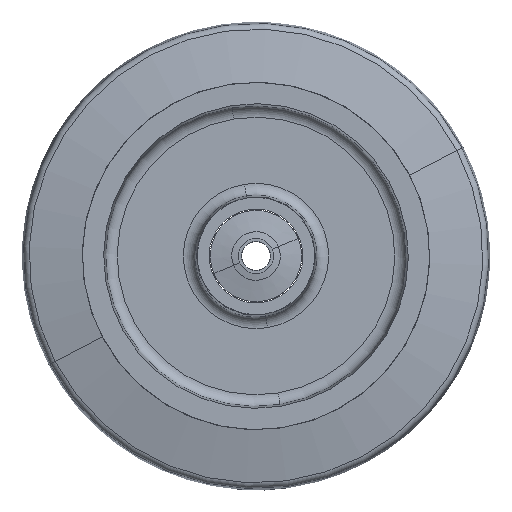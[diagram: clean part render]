
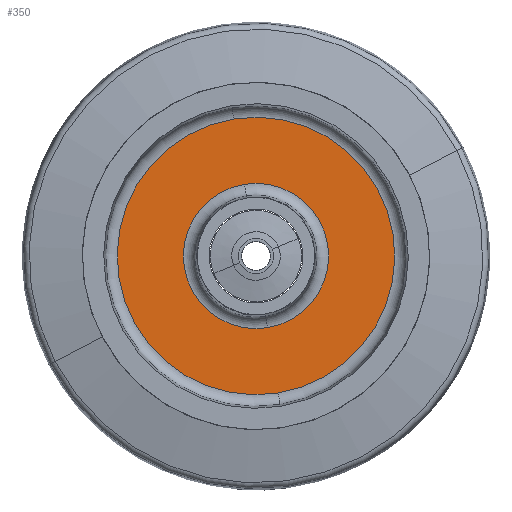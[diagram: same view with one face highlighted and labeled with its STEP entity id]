
A CAD part, left-side view. The second image highlights one B-rep face of the part: STEP entity #350.
In plain terms, the highlighted planar face has unit normal (-1, 0, 0).
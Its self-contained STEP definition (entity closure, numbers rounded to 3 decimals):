
#98 = EDGE_CURVE ( 'NONE', #103, #104, #733, .T. ) ;
#100 = VERTEX_POINT ( 'NONE', #721 ) ;
#103 = VERTEX_POINT ( 'NONE', #796 ) ;
#104 = VERTEX_POINT ( 'NONE', #805 ) ;
#201 = VERTEX_POINT ( 'NONE', #1126 ) ;
#208 = EDGE_CURVE ( 'NONE', #201, #100, #1114, .T. ) ;
#217 = ORIENTED_EDGE ( 'NONE', *, *, #225, .T. ) ;
#225 = EDGE_CURVE ( 'NONE', #104, #103, #951, .T. ) ;
#280 = ORIENTED_EDGE ( 'NONE', *, *, #98, .T. ) ;
#308 = EDGE_LOOP ( 'NONE', ( #217, #280 ) ) ;
#350 = ADVANCED_FACE ( 'NONE', ( #1259, #1354 ), #1353, .T. ) ;
#353 = EDGE_LOOP ( 'NONE', ( #360, #355 ) ) ;
#354 = EDGE_CURVE ( 'NONE', #100, #201, #1266, .T. ) ;
#355 = ORIENTED_EDGE ( 'NONE', *, *, #208, .F. ) ;
#360 = ORIENTED_EDGE ( 'NONE', *, *, #354, .F. ) ;
#721 = CARTESIAN_POINT ( 'NONE',  ( -1.798, -7.404, -56.11 ) ) ;
#733 = CIRCLE ( 'NONE', #802, 31.003 ) ;
#796 = CARTESIAN_POINT ( 'NONE',  ( -1.798, 6.969, 32.947 ) ) ;
#800 = DIRECTION ( 'NONE',  ( 0., -0.159, -0.987 ) ) ;
#801 = DIRECTION ( 'NONE',  ( 1., 0., 0. ) ) ;
#802 = AXIS2_PLACEMENT_3D ( 'NONE', #885, #801, #800 ) ;
#805 = CARTESIAN_POINT ( 'NONE',  ( -1.798, -2.91, -28.266 ) ) ;
#885 = CARTESIAN_POINT ( 'NONE',  ( -1.798, 2.029, 2.341 ) ) ;
#946 = DIRECTION ( 'NONE',  ( 0., -0.159, -0.987 ) ) ;
#947 = DIRECTION ( 'NONE',  ( 1., 0., 0. ) ) ;
#948 = CARTESIAN_POINT ( 'NONE',  ( -1.798, 2.029, 2.341 ) ) ;
#949 = AXIS2_PLACEMENT_3D ( 'NONE', #948, #947, #946 ) ;
#951 = CIRCLE ( 'NONE', #949, 31.003 ) ;
#1110 = DIRECTION ( 'NONE',  ( 0., -0.159, -0.987 ) ) ;
#1111 = DIRECTION ( 'NONE',  ( 1., 0., 0. ) ) ;
#1114 = CIRCLE ( 'NONE', #1119, 59.207 ) ;
#1118 = CARTESIAN_POINT ( 'NONE',  ( -1.798, 2.029, 2.341 ) ) ;
#1119 = AXIS2_PLACEMENT_3D ( 'NONE', #1118, #1111, #1110 ) ;
#1126 = CARTESIAN_POINT ( 'NONE',  ( -1.798, 11.462, 60.791 ) ) ;
#1259 = FACE_BOUND ( 'NONE', #308, .T. ) ;
#1266 = CIRCLE ( 'NONE', #1312, 59.207 ) ;
#1267 = AXIS2_PLACEMENT_3D ( 'NONE', #1349, #1348, #1347 ) ;
#1309 = DIRECTION ( 'NONE',  ( 0., -0.159, -0.987 ) ) ;
#1310 = DIRECTION ( 'NONE',  ( 1., 0., 0. ) ) ;
#1311 = CARTESIAN_POINT ( 'NONE',  ( -1.798, 2.029, 2.341 ) ) ;
#1312 = AXIS2_PLACEMENT_3D ( 'NONE', #1311, #1310, #1309 ) ;
#1347 = DIRECTION ( 'NONE',  ( 0., 0.159, 0.987 ) ) ;
#1348 = DIRECTION ( 'NONE',  ( -1., 0., 0. ) ) ;
#1349 = CARTESIAN_POINT ( 'NONE',  ( -1.798, 60.48, -7.093 ) ) ;
#1353 = PLANE ( 'NONE',  #1267 ) ;
#1354 = FACE_OUTER_BOUND ( 'NONE', #353, .T. ) ;
